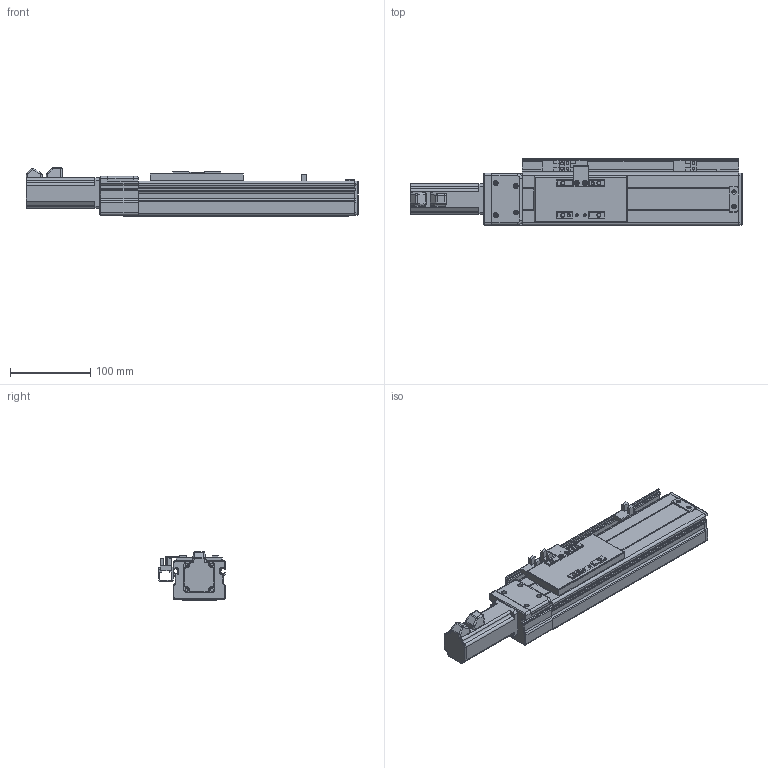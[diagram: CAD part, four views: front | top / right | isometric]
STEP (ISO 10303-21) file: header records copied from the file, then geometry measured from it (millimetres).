
FILE_DESCRIPTION (( 'STEP AP203' ), '1' );
FILE_NAME ('VT6-L10-C-S120-BC-P10-C4.STEP', '2015-10-26T04:09:14', ( '' ), ( '' ), 'SwSTEP 2.0', 'SolidWorks 2013', '' );
FILE_SCHEMA (( 'CONFIG_CONTROL_DESIGN' ));
Length unit declared in the file: millimetre
Products named in the file (15): EE-XS674; ET6-BC耜啣_120; ET6-BC癹弇羲壽羞_120; T6-賑雄殤; T6-裔啣; T6-揤輸; T6-覜茼え; T6-綴傷裔; ET6-BC絳寢_俴最120; ET6-BC滅鳥湍_120; T6-BCヶ傷裔揤啣; T6-BCヶ傷裔; 侂狟100W MSMD012G1U; ET6-BC佪裝_120; VT6-L10-C-S120-BC-P10-C4
Assembly tree (17 placements, depth 2):
  VT6-L10-C-S120-BC-P10-C4
    ET6-BC耜啣_120  x2
    ET6-BC癹弇羲壽羞_120
    T6-賑雄殤
    T6-裔啣
    T6-揤輸
    T6-覜茼え
    T6-綴傷裔
    EE-XS674  x3
    ET6-BC絳寢_俴最120
    ET6-BC滅鳥湍_120
    T6-BCヶ傷裔揤啣
    T6-BCヶ傷裔
    侂狟100W MSMD012G1U
    ET6-BC佪裝_120
Bounding box: 414 x 83 x 61 mm (x, y, z)
Volume: 571488.6 mm3; surface area: 272701.3 mm2
Topology: 17 solids, 17 shells, 856 faces, 2253 edges, 1420 vertices
Faces by surface type: plane 378, cylinder 376, cone 56, torus 28, sphere 18
Entity records: 26070 total; most frequent: CARTESIAN_POINT 4537, DIRECTION 4325, ORIENTED_EDGE 4032, EDGE_CURVE 2016, AXIS2_PLACEMENT_3D 1560, VERTEX_POINT 1280, VECTOR 1205, LINE 1205
